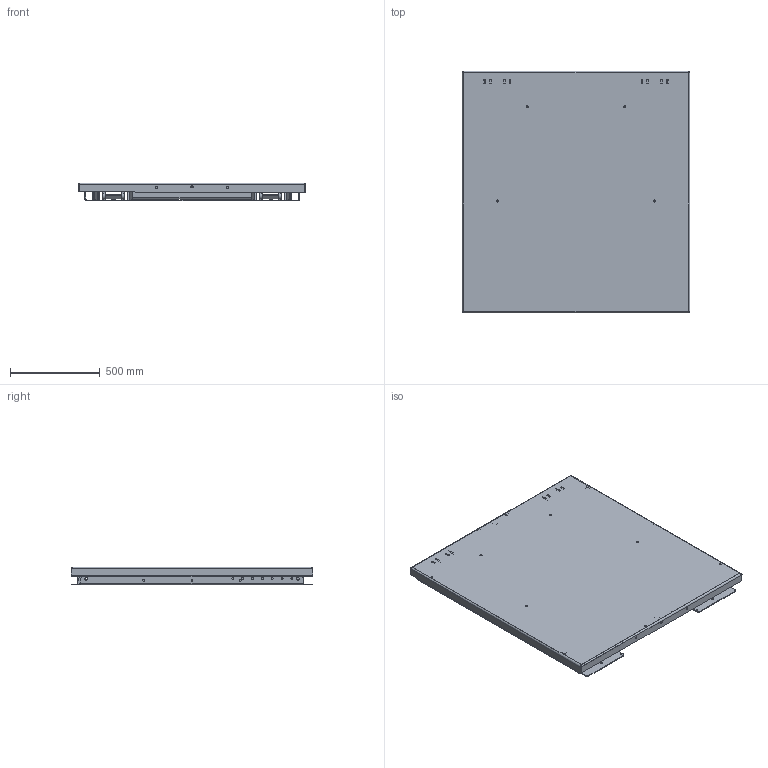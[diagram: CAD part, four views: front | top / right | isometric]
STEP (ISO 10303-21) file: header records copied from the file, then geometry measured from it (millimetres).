
FILE_DESCRIPTION(/* description */ ('TCL 2000 GB 1350x1270'),/* implementation_level */ '2;1');
FILE_NAME(/* name */ 'C:\Autodesk_VaultWork\Ritningar\Exporterade modeller\TCL 2000GB - (601343)\601343_Collapsed.stp',/* time_stamp */ '2020-07-06T09:38:14+02:00',/* author */ ('ANDMO'),/* organization */ (''),/* preprocessor_version */ 'ST-DEVELOPER v16.5',/* originating_system */ 'Autodesk Inventor 2017',/* authorisation */ '');
FILE_SCHEMA (('AUTOMOTIVE_DESIGN { 1 0 10303 214 3 1 1 }'));
Length unit declared in the file: millimetre
Products named in the file (18): 601343; 601345; 601346; 80476; 601316; 36533; 36534; 36538-2; 602757; 601260; 36532; 82149-663; 601344; 602169; 45411; ISO 4014 - M6 x 35; 44572; 45087
Assembly tree (49 placements, depth 5):
  601343
    601345
      601346
      45411  x8
      80476  x4
    601316
      36533  x2
        36534
        36538-2
      602757
        601260  x2
          36532
        82149-663  x2
    601344
      602169
      45411  x8
      ISO 4014 - M6 x 35  x6
      44572  x2
      45087  x4
Bounding box: 1270 x 1350 x 100 mm (x, y, z)
Volume: 28787107.4 mm3; surface area: 8904632 mm2
Topology: 46 solids, 46 shells, 2243 faces, 6272 edges, 4153 vertices
Faces by surface type: cylinder 1253, plane 896, cone 58, bspline 36
Full cylindrical faces by diameter (mm): 5.5 x8, 6 x18, 7.4 x12, 8.376 x4, 8.5 x4, 8.88 x6, 9 x6, 12 x4, 12.5 x6, 13 x9, 15 x16, 16 x4, 26.2 x8
Entity records: 33662 total; most frequent: CARTESIAN_POINT 6480, DIRECTION 5736, ORIENTED_EDGE 5470, EDGE_CURVE 2735, AXIS2_PLACEMENT_3D 2067, VERTEX_POINT 1843, LINE 1602, VECTOR 1602
